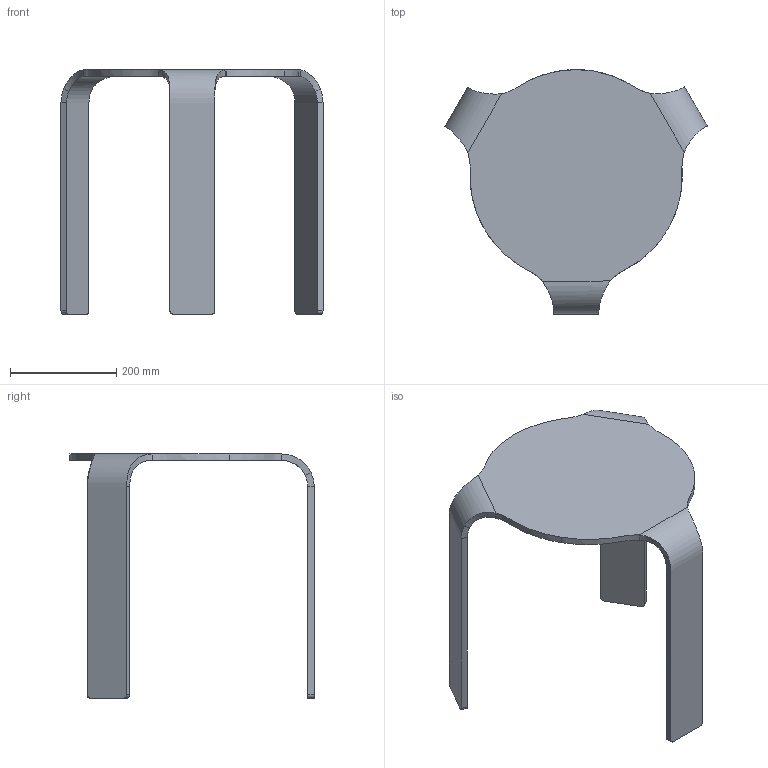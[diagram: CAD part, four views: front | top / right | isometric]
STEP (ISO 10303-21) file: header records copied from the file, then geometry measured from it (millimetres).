
FILE_DESCRIPTION(/* description */ (''),/* implementation_level */ '2;1');
FILE_NAME(/* name */ '011 - Omaggio Alvar Aalto Tris H46',/* time_stamp */ '2010-11-04T14:48:27+01:00',/* author */ (''),/* organization */ (''),/* preprocessor_version */ 'ST-DEVELOPER v10',/* originating_system */ '',/* authorisation */ '');
FILE_SCHEMA (('CONFIG_CONTROL_DESIGN'));
Length unit declared in the file: centimetre
Products named in the file (1): 1
Bounding box: 493.7 x 460.59 x 459.96 mm (x, y, z)
Volume: 3103845.8 mm3; surface area: 555505.3 mm2
Topology: 1 solids, 1 shells, 44 faces, 114 edges, 72 vertices
Faces by surface type: bspline 39, plane 5
Entity records: 2295 total; most frequent: CARTESIAN_POINT 1573, ORIENTED_EDGE 228, EDGE_CURVE 114, VERTEX_POINT 72, B_SPLINE_CURVE_WITH_KNOTS 51, ADVANCED_FACE 44, FACE_OUTER_BOUND 44, EDGE_LOOP 44
